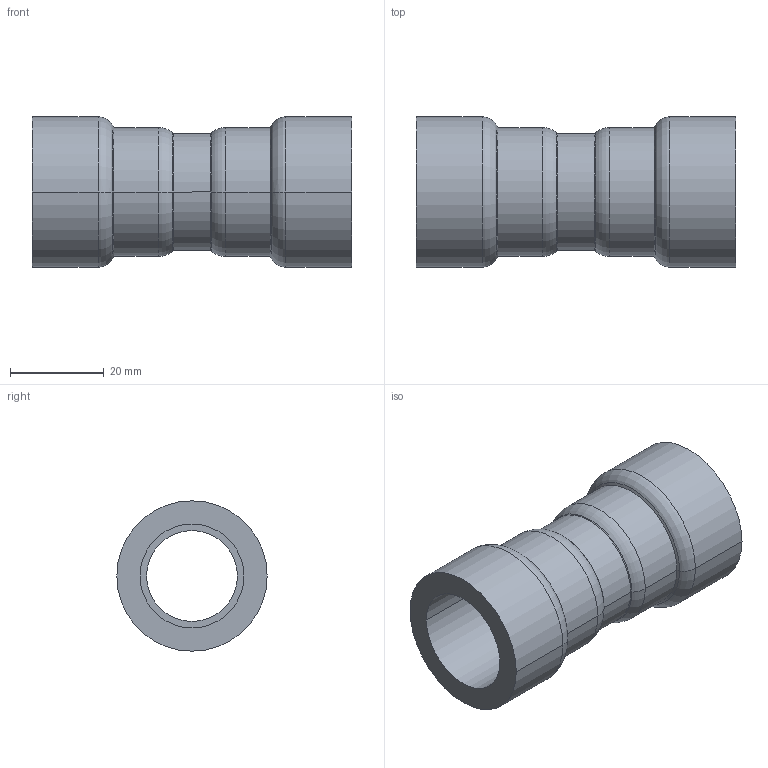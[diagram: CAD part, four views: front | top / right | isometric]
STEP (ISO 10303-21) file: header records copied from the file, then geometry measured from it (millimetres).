
FILE_DESCRIPTION(('Creo Elements/Direct Modeling STEP Export'),'2;1');
FILE_NAME('C9401_1-2.stp','2020-06-05T15:45:26',(''),(''),'PTC Creo Elements/Direct Modeling STEP processor for AP214 (Solid Model)','PTC Creo Elements/Direct Modeling 19.0C 15-Aug-2015 (C) Parametric Technology GmbH','');
FILE_SCHEMA(('AUTOMOTIVE_DESIGN { 1 0 10303 214 1 1 1 1 }'));
Length unit declared in the file: millimetre
Products named in the file (1): Tussenstuk1-2.1
Bounding box: 68.17 x 32.1 x 32.1 mm (x, y, z)
Volume: 21068.7 mm3; surface area: 12210.9 mm2
Topology: 1 solids, 1 shells, 36 faces, 72 edges, 40 vertices
Faces by surface type: cylinder 16, cone 8, torus 8, plane 4
Entity records: 858 total; most frequent: DIRECTION 154, ORIENTED_EDGE 144, CARTESIAN_POINT 129, EDGE_CURVE 72, AXIS2_PLACEMENT_3D 65, VERTEX_POINT 40, EDGE_LOOP 40, FACE_OUTER_BOUND 36
